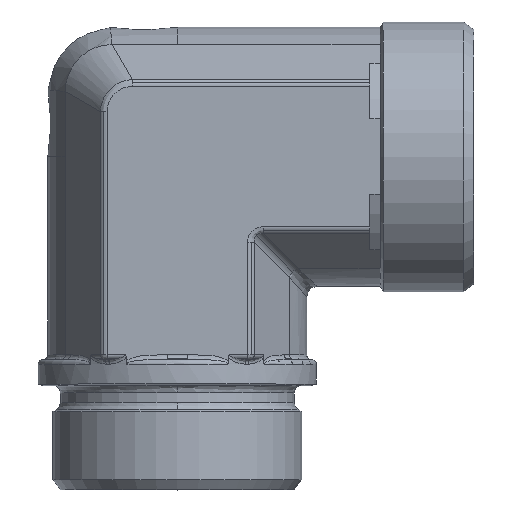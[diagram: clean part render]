
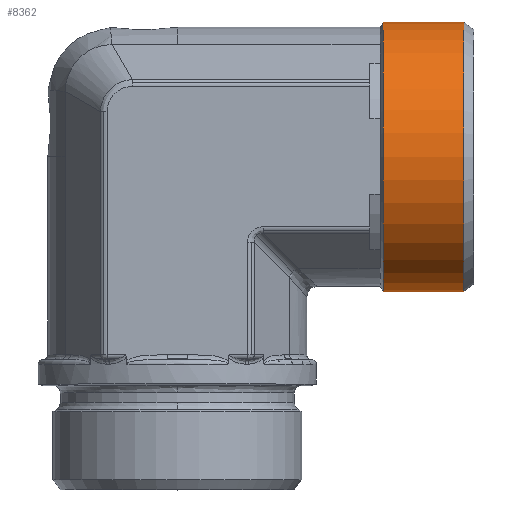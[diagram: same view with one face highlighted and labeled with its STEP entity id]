
A CAD part, top view. The second image highlights one B-rep face of the part: STEP entity #8362.
In plain terms, the highlighted cylindrical face has radius 25.91 mm (diameter 51.82 mm), a partial arc.
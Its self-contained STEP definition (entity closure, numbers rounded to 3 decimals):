
#433=CARTESIAN_POINT('',(21.41,0.,55.063));
#434=VERTEX_POINT('',#433);
#450=CARTESIAN_POINT('',(-30.41,0.,55.063));
#451=VERTEX_POINT('',#450);
#458=CARTESIAN_POINT('',(-4.5,0.,55.063));
#459=DIRECTION('',(0.0,0.0,1.0));
#460=DIRECTION('',(1.0,0.0,0.0));
#461=AXIS2_PLACEMENT_3D('',#458,#459,#460);
#462=CIRCLE('',#461,25.91);
#463=EDGE_CURVE('',#451,#434,#462,.T.);
#473=CARTESIAN_POINT('',(21.41,0.,39.598));
#474=VERTEX_POINT('',#473);
#507=CARTESIAN_POINT('',(-30.41,0.,39.598));
#508=VERTEX_POINT('',#507);
#572=CARTESIAN_POINT('',(21.41,0.,39.598));
#573=DIRECTION('',(0.0,0.0,1.0));
#574=VECTOR('',#573,15.465);
#575=LINE('',#572,#574);
#576=EDGE_CURVE('',#474,#434,#575,.T.);
#579=CARTESIAN_POINT('',(-30.41,0.,55.063));
#580=DIRECTION('',(0.0,0.0,-1.0));
#581=VECTOR('',#580,15.465);
#582=LINE('',#579,#581);
#583=EDGE_CURVE('',#451,#508,#582,.T.);
#8345=CARTESIAN_POINT('',(-4.5,0.,59.));
#8346=DIRECTION('',(0.,0.,-1.0));
#8347=DIRECTION('',(1.0,0.0,0.0));
#8348=AXIS2_PLACEMENT_3D('',#8345,#8346,#8347);
#8349=CYLINDRICAL_SURFACE('',#8348,25.91);
#8350=ORIENTED_EDGE('',*,*,#576,.T.);
#8351=ORIENTED_EDGE('',*,*,#463,.F.);
#8352=ORIENTED_EDGE('',*,*,#583,.T.);
#8353=CARTESIAN_POINT('',(-4.5,0.,39.598));
#8354=DIRECTION('',(0.0,0.0,-1.0));
#8355=DIRECTION('',(1.0,0.0,0.0));
#8356=AXIS2_PLACEMENT_3D('',#8353,#8354,#8355);
#8357=CIRCLE('',#8356,25.91);
#8358=EDGE_CURVE('',#474,#508,#8357,.T.);
#8359=ORIENTED_EDGE('',*,*,#8358,.F.);
#8360=EDGE_LOOP('',(#8350,#8351,#8352,#8359));
#8361=FACE_OUTER_BOUND('',#8360,.T.);
#8362=ADVANCED_FACE('',(#8361),#8349,.T.);
